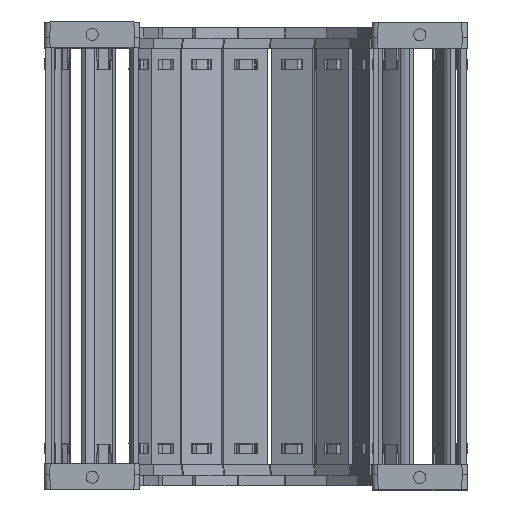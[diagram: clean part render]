
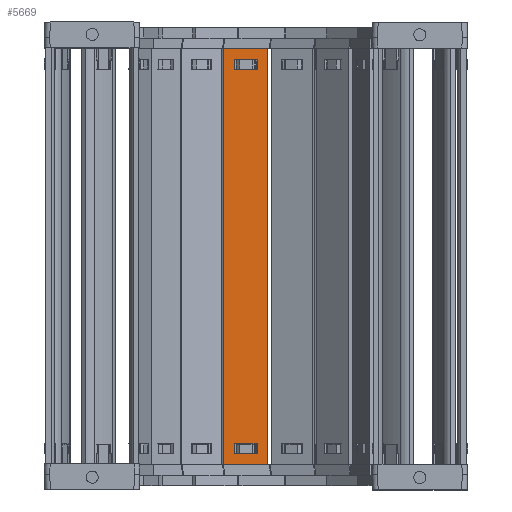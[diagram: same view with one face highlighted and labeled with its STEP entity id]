
A CAD part, top view. The second image highlights one B-rep face of the part: STEP entity #5669.
In plain terms, the highlighted planar face has unit normal (0.035, 0, 0.999) as drawn and (0, 1, 0) by its records, which use the part's own axes.
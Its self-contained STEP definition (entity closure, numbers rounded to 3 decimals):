
#5089=DIRECTION('',(0.,0.,1.));
#5090=VECTOR('',#5089,15.8);
#5091=CARTESIAN_POINT('',(135.74,1.5,-7.9));
#5092=LINE('',#5091,#5090);
#5093=DIRECTION('',(-1.,0.,0.));
#5094=VECTOR('',#5093,150.5);
#5095=CARTESIAN_POINT('',(135.74,1.5,7.9));
#5096=LINE('',#5095,#5094);
#5097=DIRECTION('',(0.,0.,-1.));
#5098=VECTOR('',#5097,15.8);
#5099=CARTESIAN_POINT('',(-14.76,1.5,7.9));
#5100=LINE('',#5099,#5098);
#5101=DIRECTION('',(1.,0.,0.));
#5102=VECTOR('',#5101,3.648);
#5103=CARTESIAN_POINT('',(128.122,1.5,4.075));
#5104=LINE('',#5103,#5102);
#5105=DIRECTION('',(0.,0.,-1.));
#5106=VECTOR('',#5105,8.15);
#5107=CARTESIAN_POINT('',(131.77,1.5,4.075));
#5108=LINE('',#5107,#5106);
#5109=DIRECTION('',(-1.,0.,0.));
#5110=VECTOR('',#5109,3.648);
#5111=CARTESIAN_POINT('',(131.77,1.5,-4.075));
#5112=LINE('',#5111,#5110);
#5113=DIRECTION('',(0.,0.,-1.));
#5114=VECTOR('',#5113,8.15);
#5115=CARTESIAN_POINT('',(-7.142,1.5,4.075));
#5116=LINE('',#5115,#5114);
#5117=DIRECTION('',(-1.,0.,0.));
#5118=VECTOR('',#5117,3.648);
#5119=CARTESIAN_POINT('',(-7.142,1.5,-4.075));
#5120=LINE('',#5119,#5118);
#5121=DIRECTION('',(0.,0.,1.));
#5122=VECTOR('',#5121,8.15);
#5123=CARTESIAN_POINT('',(-10.79,1.5,-4.075));
#5124=LINE('',#5123,#5122);
#5125=DIRECTION('',(1.,0.,0.));
#5126=VECTOR('',#5125,3.648);
#5127=CARTESIAN_POINT('',(-10.79,1.5,4.075));
#5128=LINE('',#5127,#5126);
#5133=DIRECTION('',(-1.,0.,0.));
#5134=VECTOR('',#5133,150.5);
#5135=CARTESIAN_POINT('',(135.74,1.5,-7.9));
#5136=LINE('',#5135,#5134);
#5254=DIRECTION('',(0.,0.,-1.));
#5255=VECTOR('',#5254,8.15);
#5256=CARTESIAN_POINT('',(128.122,1.5,4.075));
#5257=LINE('',#5256,#5255);
#5439=CARTESIAN_POINT('',(131.77,1.5,4.075));
#5440=VERTEX_POINT('',#5439);
#5441=CARTESIAN_POINT('',(128.122,1.5,4.075));
#5442=VERTEX_POINT('',#5441);
#5483=CARTESIAN_POINT('',(128.122,1.5,-4.075));
#5484=VERTEX_POINT('',#5483);
#5485=CARTESIAN_POINT('',(131.77,1.5,-4.075));
#5486=VERTEX_POINT('',#5485);
#5487=CARTESIAN_POINT('',(135.74,1.5,7.9));
#5489=VERTEX_POINT('',#5487);
#5491=CARTESIAN_POINT('',(135.74,1.5,-7.9));
#5492=VERTEX_POINT('',#5491);
#5515=CARTESIAN_POINT('',(-7.142,1.5,4.075));
#5516=CARTESIAN_POINT('',(-7.142,1.5,-4.075));
#5517=VERTEX_POINT('',#5515);
#5518=VERTEX_POINT('',#5516);
#5519=CARTESIAN_POINT('',(-10.79,1.5,-4.075));
#5520=VERTEX_POINT('',#5519);
#5521=CARTESIAN_POINT('',(-10.79,1.5,4.075));
#5522=VERTEX_POINT('',#5521);
#5523=CARTESIAN_POINT('',(-14.76,1.5,7.9));
#5524=VERTEX_POINT('',#5523);
#5527=CARTESIAN_POINT('',(-14.76,1.5,-7.9));
#5528=VERTEX_POINT('',#5527);
#5638=CARTESIAN_POINT('',(167.48,1.5,10.061));
#5639=DIRECTION('',(0.,-1.,0.));
#5640=DIRECTION('',(0.,0.,-1.));
#5641=AXIS2_PLACEMENT_3D('',#5638,#5639,#5640);
#5642=PLANE('',#5641);
#5643=ORIENTED_EDGE('',*,*,#5577,.T.);
#5644=ORIENTED_EDGE('',*,*,#5603,.T.);
#5645=ORIENTED_EDGE('',*,*,#5616,.T.);
#5647=ORIENTED_EDGE('',*,*,#5646,.F.);
#5648=EDGE_LOOP('',(#5643,#5644,#5645,#5647));
#5649=FACE_OUTER_BOUND('',#5648,.F.);
#5651=ORIENTED_EDGE('',*,*,#5650,.F.);
#5652=ORIENTED_EDGE('',*,*,#5540,.T.);
#5654=ORIENTED_EDGE('',*,*,#5653,.T.);
#5656=ORIENTED_EDGE('',*,*,#5655,.T.);
#5657=EDGE_LOOP('',(#5651,#5652,#5654,#5656));
#5658=FACE_BOUND('',#5657,.F.);
#5660=ORIENTED_EDGE('',*,*,#5659,.T.);
#5662=ORIENTED_EDGE('',*,*,#5661,.T.);
#5664=ORIENTED_EDGE('',*,*,#5663,.T.);
#5666=ORIENTED_EDGE('',*,*,#5665,.T.);
#5667=EDGE_LOOP('',(#5660,#5662,#5664,#5666));
#5668=FACE_BOUND('',#5667,.F.);
#5669=ADVANCED_FACE('',(#5649,#5658,#5668),#5642,.F.);
#5540=EDGE_CURVE('',#5442,#5440,#5104,.T.);
#5577=EDGE_CURVE('',#5492,#5489,#5092,.T.);
#5603=EDGE_CURVE('',#5489,#5524,#5096,.T.);
#5616=EDGE_CURVE('',#5524,#5528,#5100,.T.);
#5646=EDGE_CURVE('',#5492,#5528,#5136,.T.);
#5650=EDGE_CURVE('',#5442,#5484,#5257,.T.);
#5653=EDGE_CURVE('',#5440,#5486,#5108,.T.);
#5655=EDGE_CURVE('',#5486,#5484,#5112,.T.);
#5659=EDGE_CURVE('',#5517,#5518,#5116,.T.);
#5661=EDGE_CURVE('',#5518,#5520,#5120,.T.);
#5663=EDGE_CURVE('',#5520,#5522,#5124,.T.);
#5665=EDGE_CURVE('',#5522,#5517,#5128,.T.);
